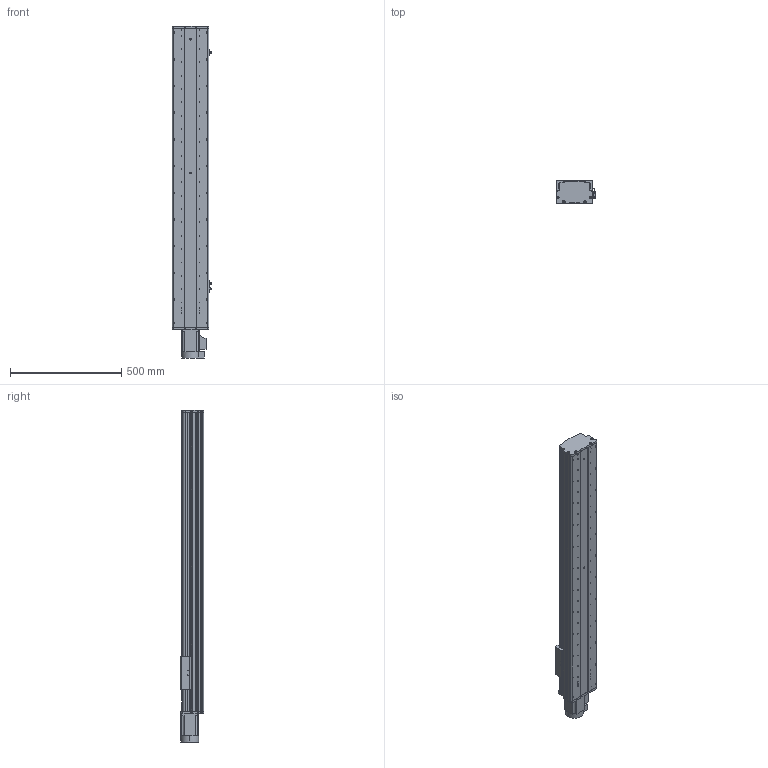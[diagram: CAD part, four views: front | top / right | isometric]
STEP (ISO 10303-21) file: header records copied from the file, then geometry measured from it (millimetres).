
FILE_DESCRIPTION (( 'STEP AP214' ), '1' );
FILE_NAME ('KSD165S-S1050-MN-CM .STEP', '2017-08-07T08:21:15', ( '微软用户' ), ( '微软中国' ), 'SwSTEP 2.0', 'SolidWorks 2014', '' );
FILE_SCHEMA (( 'AUTOMOTIVE_DESIGN' ));
Length unit declared in the file: millimetre
Products named in the file (12): 拸秶雄ん750W侜督萇儂; KSD165模组-直连不带电机座电机连接板; KSD165耀郪-佪裝-滅袉菜-3 -; C44ㄜ1912WP; 覜茼え68遵圉猾敕; U倰嫖萇假蚾璃; U倰嫖萇EEㄜSX672; KSD165耀郪-綴傷啣1; KSD165模组-丝杆滑动座-最新版; KSD165S-S1050-MN-CM ; KSD165模组-防尘盖1-1050行程-直连不带电机座; KSD165模组底板-1050行程-直连不带电机座
Assembly tree (15 placements, depth 2):
  KSD165S-S1050-MN-CM 
    KSD165模组-丝杆滑动座-最新版
    KSD165耀郪-綴傷啣1
    U倰嫖萇EEㄜSX672  x3
    U倰嫖萇假蚾璃  x3
    覜茼え68遵圉猾敕
    C44ㄜ1912WP
    KSD165耀郪-佪裝-滅袉菜-3 -
    KSD165模组-直连不带电机座电机连接板
    拸秶雄ん750W侜督萇儂
    KSD165模组底板-1050行程-直连不带电机座
    KSD165模组-防尘盖1-1050行程-直连不带电机座
Bounding box: 178.7 x 104 x 1493 mm (x, y, z)
Volume: 8090299.3 mm3; surface area: 1804376 mm2
Topology: 16 solids, 16 shells, 1273 faces, 3574 edges, 2321 vertices
Faces by surface type: cylinder 695, plane 501, cone 77
Entity records: 40815 total; most frequent: CARTESIAN_POINT 9087, DIRECTION 6055, ORIENTED_EDGE 5828, EDGE_CURVE 2914, AXIS2_PLACEMENT_3D 2289, VERTEX_POINT 1913, VECTOR 1477, LINE 1477
